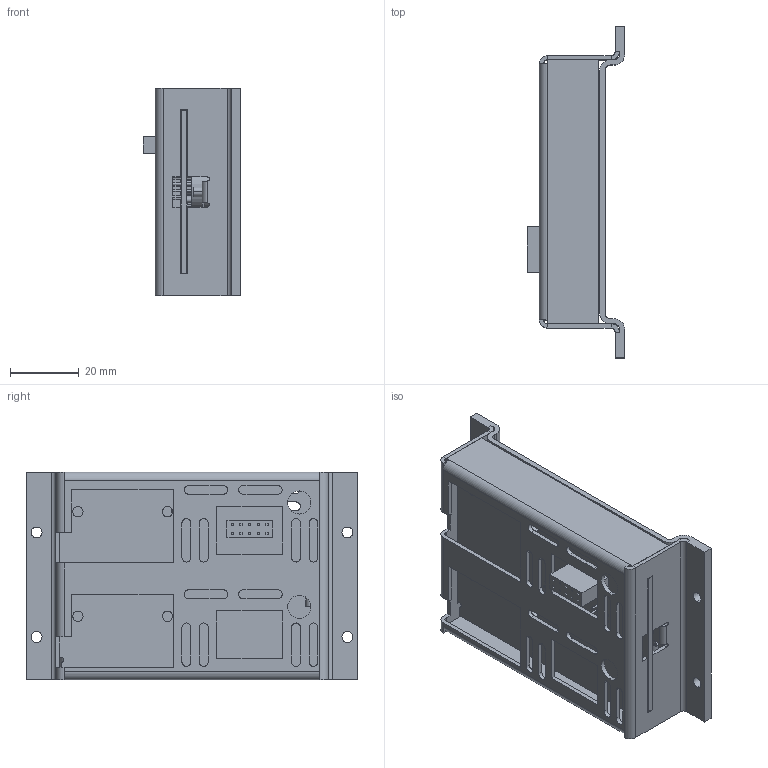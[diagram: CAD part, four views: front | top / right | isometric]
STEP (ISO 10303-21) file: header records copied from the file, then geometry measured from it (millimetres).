
FILE_DESCRIPTION((''),'2;1');
FILE_NAME('CU_SCXI-1357_2-SLOT','2011-08-16T',('jjorden'),(''),'PRO/ENGINEER BY PARAMETRIC TECHNOLOGY CORPORATION, 2010230','PRO/ENGINEER BY PARAMETRIC TECHNOLOGY CORPORATION, 2010230','');
FILE_SCHEMA(('CONFIG_CONTROL_DESIGN'));
Length unit declared in the file: inch
Products named in the file (1): CU_SCXI-1357_2-SLOT
Bounding box: 28.37 x 96.77 x 60.67 mm (x, y, z)
Volume: 27232.8 mm3; surface area: 39625.1 mm2
Topology: 1 solids, 1 shells, 686 faces, 1791 edges, 1151 vertices
Faces by surface type: plane 381, cylinder 271, bspline 30, torus 2, sphere 2
Entity records: 22035 total; most frequent: CARTESIAN_POINT 4561, DIRECTION 3599, ORIENTED_EDGE 3542, EDGE_CURVE 1771, AXIS2_PLACEMENT_3D 1226, VERTEX_POINT 1170, VECTOR 1147, LINE 1147
